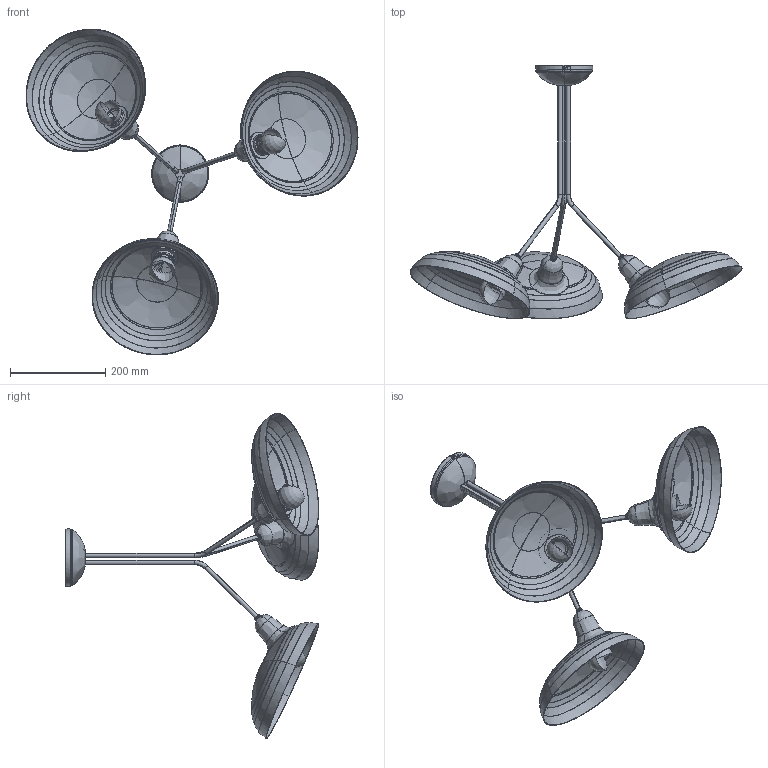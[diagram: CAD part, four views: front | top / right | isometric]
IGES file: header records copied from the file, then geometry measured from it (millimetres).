
Start section: SolidWorks IGES file using analytic representation for surfaces
Global section: file name: E:\_DESIGN\Aura\Aura III zwis 6867\Aura III 6867.IGS; native system: SolidWorks 2016; preprocessor: SolidWorks 2016; author: Asia; date: 160707.133939; units: millimetre
Bounding box: 697.63 x 532.49 x 684.37 mm (x, y, z)
Surface area: 762415.9 mm2 (no closed solid volume)
Topology: 0 solids, 0 shells, 1137 faces, 14051 edges, 14042 vertices
Faces by surface type: revolution 724, bspline 413
